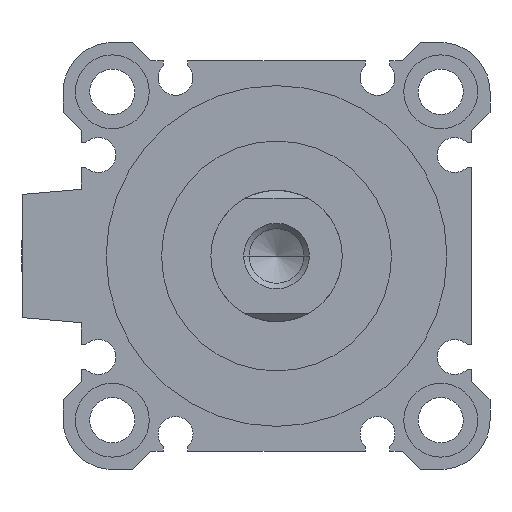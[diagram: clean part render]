
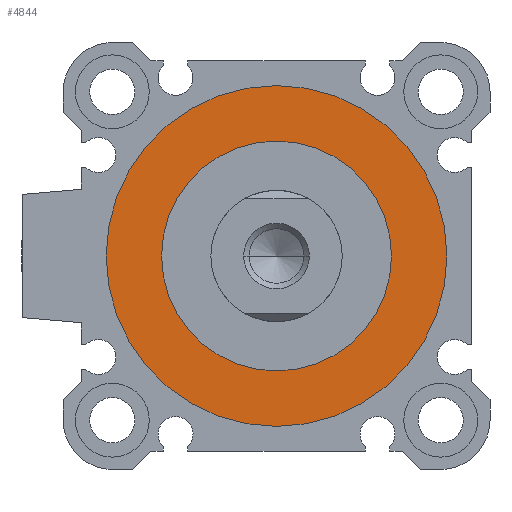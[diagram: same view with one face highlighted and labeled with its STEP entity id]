
A CAD part, left-side view. The second image highlights one B-rep face of the part: STEP entity #4844.
In plain terms, the highlighted planar face has unit normal (-1, 0, 0).
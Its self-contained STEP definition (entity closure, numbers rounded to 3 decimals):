
#133 = CARTESIAN_POINT ( 'NONE',  ( 3.3, 0., -20.75 ) ) ;
#309 = CIRCLE ( 'NONE', #3640, 20.75 ) ;
#311 = CARTESIAN_POINT ( 'NONE',  ( 3.3, 0., 0. ) ) ;
#319 = DIRECTION ( 'NONE',  ( 0., 0., -1. ) ) ;
#396 = CIRCLE ( 'NONE', #4701, 14. ) ;
#611 = CIRCLE ( 'NONE', #933, 14. ) ;
#688 = EDGE_LOOP ( 'NONE', ( #4058, #3432 ) ) ;
#721 = CARTESIAN_POINT ( 'NONE',  ( 3.3, 0., 0. ) ) ;
#933 = AXIS2_PLACEMENT_3D ( 'NONE', #4299, #3879, #1270 ) ;
#1012 = AXIS2_PLACEMENT_3D ( 'NONE', #721, #1868, #3118 ) ;
#1076 = PLANE ( 'NONE',  #1012 ) ;
#1110 = DIRECTION ( 'NONE',  ( 0., 0., -1. ) ) ;
#1223 = EDGE_CURVE ( 'NONE', #1404, #4228, #396, .T. ) ;
#1270 = DIRECTION ( 'NONE',  ( 0., 0., -1. ) ) ;
#1404 = VERTEX_POINT ( 'NONE', #2404 ) ;
#1557 = FACE_BOUND ( 'NONE', #1751, .T. ) ;
#1751 = EDGE_LOOP ( 'NONE', ( #1966, #4690 ) ) ;
#1818 = VERTEX_POINT ( 'NONE', #133 ) ;
#1868 = DIRECTION ( 'NONE',  ( 1., 0., 0. ) ) ;
#1955 = EDGE_CURVE ( 'NONE', #4796, #1818, #309, .T. ) ;
#1966 = ORIENTED_EDGE ( 'NONE', *, *, #1223, .T. ) ;
#2351 = EDGE_CURVE ( 'NONE', #1818, #4796, #2728, .T. ) ;
#2404 = CARTESIAN_POINT ( 'NONE',  ( 3.3, 0., 14. ) ) ;
#2644 = CARTESIAN_POINT ( 'NONE',  ( 3.3, 0., 0. ) ) ;
#2728 = CIRCLE ( 'NONE', #4662, 20.75 ) ;
#3118 = DIRECTION ( 'NONE',  ( 0., 1., 0. ) ) ;
#3432 = ORIENTED_EDGE ( 'NONE', *, *, #2351, .F. ) ;
#3640 = AXIS2_PLACEMENT_3D ( 'NONE', #2644, #4490, #1110 ) ;
#3809 = DIRECTION ( 'NONE',  ( 1., 0., 0. ) ) ;
#3879 = DIRECTION ( 'NONE',  ( 1., 0., 0. ) ) ;
#4058 = ORIENTED_EDGE ( 'NONE', *, *, #1955, .F. ) ;
#4139 = EDGE_CURVE ( 'NONE', #4228, #1404, #611, .T. ) ;
#4173 = DIRECTION ( 'NONE',  ( 0., 0., -1. ) ) ;
#4228 = VERTEX_POINT ( 'NONE', #4727 ) ;
#4231 = CARTESIAN_POINT ( 'NONE',  ( 3.3, 0., 0. ) ) ;
#4299 = CARTESIAN_POINT ( 'NONE',  ( 3.3, 0., 0. ) ) ;
#4483 = CARTESIAN_POINT ( 'NONE',  ( 3.3, 0., 20.75 ) ) ;
#4490 = DIRECTION ( 'NONE',  ( 1., 0., 0. ) ) ;
#4507 = DIRECTION ( 'NONE',  ( 1., 0., 0. ) ) ;
#4634 = FACE_OUTER_BOUND ( 'NONE', #688, .T. ) ;
#4662 = AXIS2_PLACEMENT_3D ( 'NONE', #311, #4507, #4173 ) ;
#4690 = ORIENTED_EDGE ( 'NONE', *, *, #4139, .T. ) ;
#4701 = AXIS2_PLACEMENT_3D ( 'NONE', #4231, #3809, #319 ) ;
#4727 = CARTESIAN_POINT ( 'NONE',  ( 3.3, 0., -14. ) ) ;
#4796 = VERTEX_POINT ( 'NONE', #4483 ) ;
#4844 = ADVANCED_FACE ( 'NONE', ( #4634, #1557 ), #1076, .F. ) ;
